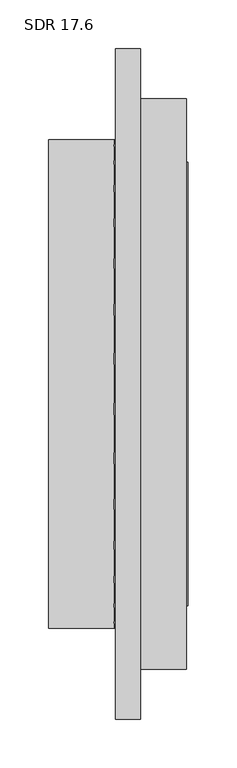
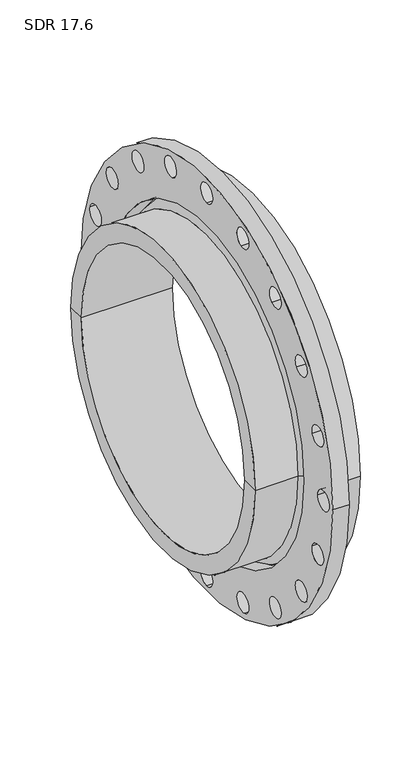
"""IFC4 building model written with IfcOpenShell, lengths in millimetres: valve geometry, Aquatherm - Flange Adapter Butt-Weld : SDR 17.6."""

from ifc_helpers import new_model, si_unit, point, frame, frame_2d, origin, origin_2d, place, context, project, spatial, polyline, circle_curve, trimmed, segment, composite_curve, outline, extrude, source, transform, mapped, element, save
from ifc_brep_helpers import plane_surface, cylinder_surface, revolved_surface, advanced_brep


def sdr_17_6_2c90151d(model_context):
    return source(origin(), model_context, "Body", "SolidModel", [
        extrude(outline(composite_curve([segment(trimmed(circle_curve(origin_2d(), 342.9), [point((-342.9, 0.0))], [point((342.9, 0.0))], False, "CARTESIAN"), True, "CONTINUOUS"), segment(trimmed(circle_curve(origin_2d(), 342.9), [point((342.9, 0.0))], [point((-342.9, 0.0))], False, "CARTESIAN"), True, "CONTINUOUS")], self_intersect=False), holes=[composite_curve([segment(trimmed(circle_curve(origin_2d(), 264.16), [point((-264.16, 0.0))], [point((264.16, 0.0))], True, "CARTESIAN"), True, "CONTINUOUS"), segment(trimmed(circle_curve(origin_2d(), 264.16), [point((264.16, 0.0))], [point((-264.16, 0.0))], True, "CARTESIAN"), True, "CONTINUOUS")], self_intersect=False), composite_curve([segment(trimmed(circle_curve(frame_2d((317.5, 0.0)), 15.875), [point((301.625, 0.0))], [point((333.375, 0.0))], True, "CARTESIAN"), True, "CONTINUOUS"), segment(trimmed(circle_curve(frame_2d((317.5, 0.0)), 15.875), [point((333.375, 0.0))], [point((301.625, 0.0))], True, "CARTESIAN"), True, "CONTINUOUS")], self_intersect=False), composite_curve([segment(trimmed(circle_curve(frame_2d((301.9604439, -98.1128957)), 15.875), [point((286.8624217, -93.2072509))], [point((317.0584661, -103.0185405))], True, "CARTESIAN"), True, "CONTINUOUS"), segment(trimmed(circle_curve(frame_2d((301.9604439, -98.1128957)), 15.875), [point((317.0584661, -103.0185405))], [point((286.8624217, -93.2072509))], True, "CARTESIAN"), True, "CONTINUOUS")], self_intersect=False), composite_curve([segment(trimmed(circle_curve(frame_2d((301.9604439, 98.1128957)), 15.875), [point((286.8624217, 93.2072509))], [point((317.0584661, 103.0185405))], True, "CARTESIAN"), True, "CONTINUOUS"), segment(trimmed(circle_curve(frame_2d((301.9604439, 98.1128957)), 15.875), [point((317.0584661, 103.0185405))], [point((286.8624217, 93.2072509))], True, "CARTESIAN"), True, "CONTINUOUS")], self_intersect=False), composite_curve([segment(trimmed(circle_curve(frame_2d((256.8628957, 186.6218176)), 15.875), [point((244.0197509, 177.2907267))], [point((269.7060405, 195.9529085))], True, "CARTESIAN"), True, "CONTINUOUS"), segment(trimmed(circle_curve(frame_2d((256.8628957, 186.6218176)), 15.875), [point((269.7060405, 195.9529085))], [point((244.0197509, 177.2907267))], True, "CARTESIAN"), True, "CONTINUOUS")], self_intersect=False), composite_curve([segment(trimmed(circle_curve(frame_2d((186.6218176, 256.8628957)), 15.875), [point((177.2907267, 244.0197509))], [point((195.9529085, 269.7060405))], True, "CARTESIAN"), True, "CONTINUOUS"), segment(trimmed(circle_curve(frame_2d((186.6218176, 256.8628957)), 15.875), [point((195.9529085, 269.7060405))], [point((177.2907267, 244.0197509))], True, "CARTESIAN"), True, "CONTINUOUS")], self_intersect=False), composite_curve([segment(trimmed(circle_curve(frame_2d((98.1128957, 301.9604439)), 15.875), [point((93.2072509, 286.8624217))], [point((103.0185405, 317.0584661))], True, "CARTESIAN"), True, "CONTINUOUS"), segment(trimmed(circle_curve(frame_2d((98.1128957, 301.9604439)), 15.875), [point((103.0185405, 317.0584661))], [point((93.2072509, 286.8624217))], True, "CARTESIAN"), True, "CONTINUOUS")], self_intersect=False), composite_curve([segment(trimmed(circle_curve(frame_2d((0.0, 317.5)), 15.875), [point((0.0, 301.625))], [point((0.0, 333.375))], True, "CARTESIAN"), True, "CONTINUOUS"), segment(trimmed(circle_curve(frame_2d((0.0, 317.5)), 15.875), [point((0.0, 333.375))], [point((0.0, 301.625))], True, "CARTESIAN"), True, "CONTINUOUS")], self_intersect=False), composite_curve([segment(trimmed(circle_curve(frame_2d((-98.1128957, 301.9604439)), 15.875), [point((-93.2072509, 286.8624217))], [point((-103.0185405, 317.0584661))], True, "CARTESIAN"), True, "CONTINUOUS"), segment(trimmed(circle_curve(frame_2d((-98.1128957, 301.9604439)), 15.875), [point((-103.0185405, 317.0584661))], [point((-93.2072509, 286.8624217))], True, "CARTESIAN"), True, "CONTINUOUS")], self_intersect=False), composite_curve([segment(trimmed(circle_curve(frame_2d((-186.6218176, 256.8628957)), 15.875), [point((-177.2907267, 244.0197509))], [point((-195.9529085, 269.7060405))], True, "CARTESIAN"), True, "CONTINUOUS"), segment(trimmed(circle_curve(frame_2d((-186.6218176, 256.8628957)), 15.875), [point((-195.9529085, 269.7060405))], [point((-177.2907267, 244.0197509))], True, "CARTESIAN"), True, "CONTINUOUS")], self_intersect=False), composite_curve([segment(trimmed(circle_curve(frame_2d((-256.8628957, 186.6218176)), 15.875), [point((-244.0197509, 177.2907267))], [point((-269.7060405, 195.9529085))], True, "CARTESIAN"), True, "CONTINUOUS"), segment(trimmed(circle_curve(frame_2d((-256.8628957, 186.6218176)), 15.875), [point((-269.7060405, 195.9529085))], [point((-244.0197509, 177.2907267))], True, "CARTESIAN"), True, "CONTINUOUS")], self_intersect=False), composite_curve([segment(trimmed(circle_curve(frame_2d((-301.9604439, 98.1128957)), 15.875), [point((-286.8624217, 93.2072509))], [point((-317.0584661, 103.0185405))], True, "CARTESIAN"), True, "CONTINUOUS"), segment(trimmed(circle_curve(frame_2d((-301.9604439, 98.1128957)), 15.875), [point((-317.0584661, 103.0185405))], [point((-286.8624217, 93.2072509))], True, "CARTESIAN"), True, "CONTINUOUS")], self_intersect=False), composite_curve([segment(trimmed(circle_curve(frame_2d((-317.5, 0.0)), 15.875), [point((-301.625, 0.0))], [point((-333.375, 0.0))], True, "CARTESIAN"), True, "CONTINUOUS"), segment(trimmed(circle_curve(frame_2d((-317.5, 0.0)), 15.875), [point((-333.375, 0.0))], [point((-301.625, 0.0))], True, "CARTESIAN"), True, "CONTINUOUS")], self_intersect=False), composite_curve([segment(trimmed(circle_curve(frame_2d((-301.9604439, -98.1128957)), 15.875), [point((-286.8624217, -93.2072509))], [point((-317.0584661, -103.0185405))], True, "CARTESIAN"), True, "CONTINUOUS"), segment(trimmed(circle_curve(frame_2d((-301.9604439, -98.1128957)), 15.875), [point((-317.0584661, -103.0185405))], [point((-286.8624217, -93.2072509))], True, "CARTESIAN"), True, "CONTINUOUS")], self_intersect=False), composite_curve([segment(trimmed(circle_curve(frame_2d((-256.8628957, -186.6218176)), 15.875), [point((-244.0197509, -177.2907267))], [point((-269.7060405, -195.9529085))], True, "CARTESIAN"), True, "CONTINUOUS"), segment(trimmed(circle_curve(frame_2d((-256.8628957, -186.6218176)), 15.875), [point((-269.7060405, -195.9529085))], [point((-244.0197509, -177.2907267))], True, "CARTESIAN"), True, "CONTINUOUS")], self_intersect=False), composite_curve([segment(trimmed(circle_curve(frame_2d((-186.6218176, -256.8628957)), 15.875), [point((-177.2907267, -244.0197509))], [point((-195.9529085, -269.7060405))], True, "CARTESIAN"), True, "CONTINUOUS"), segment(trimmed(circle_curve(frame_2d((-186.6218176, -256.8628957)), 15.875), [point((-195.9529085, -269.7060405))], [point((-177.2907267, -244.0197509))], True, "CARTESIAN"), True, "CONTINUOUS")], self_intersect=False), composite_curve([segment(trimmed(circle_curve(frame_2d((-98.1128957, -301.9604439)), 15.875), [point((-93.2072509, -286.8624217))], [point((-103.0185405, -317.0584661))], True, "CARTESIAN"), True, "CONTINUOUS"), segment(trimmed(circle_curve(frame_2d((-98.1128957, -301.9604439)), 15.875), [point((-103.0185405, -317.0584661))], [point((-93.2072509, -286.8624217))], True, "CARTESIAN"), True, "CONTINUOUS")], self_intersect=False), composite_curve([segment(trimmed(circle_curve(frame_2d((0.0, -317.5)), 15.875), [point((0.0, -301.625))], [point((0.0, -333.375))], True, "CARTESIAN"), True, "CONTINUOUS"), segment(trimmed(circle_curve(frame_2d((0.0, -317.5)), 15.875), [point((0.0, -333.375))], [point((0.0, -301.625))], True, "CARTESIAN"), True, "CONTINUOUS")], self_intersect=False), composite_curve([segment(trimmed(circle_curve(frame_2d((98.1128957, -301.9604439)), 15.875), [point((93.2072509, -286.8624217))], [point((103.0185405, -317.0584661))], True, "CARTESIAN"), True, "CONTINUOUS"), segment(trimmed(circle_curve(frame_2d((98.1128957, -301.9604439)), 15.875), [point((103.0185405, -317.0584661))], [point((93.2072509, -286.8624217))], True, "CARTESIAN"), True, "CONTINUOUS")], self_intersect=False), composite_curve([segment(trimmed(circle_curve(frame_2d((186.6218176, -256.8628957)), 15.875), [point((177.2907267, -244.0197509))], [point((195.9529085, -269.7060405))], True, "CARTESIAN"), True, "CONTINUOUS"), segment(trimmed(circle_curve(frame_2d((186.6218176, -256.8628957)), 15.875), [point((195.9529085, -269.7060405))], [point((177.2907267, -244.0197509))], True, "CARTESIAN"), True, "CONTINUOUS")], self_intersect=False), composite_curve([segment(trimmed(circle_curve(frame_2d((256.8628957, -186.6218176)), 15.875), [point((244.0197509, -177.2907267))], [point((269.7060405, -195.9529085))], True, "CARTESIAN"), True, "CONTINUOUS"), segment(trimmed(circle_curve(frame_2d((256.8628957, -186.6218176)), 15.875), [point((269.7060405, -195.9529085))], [point((244.0197509, -177.2907267))], True, "CARTESIAN"), True, "CONTINUOUS")], self_intersect=False)]), frame((-25.4, 0.0, 0.0), z_axis=(1.0, 0.0, 0.0), x_axis=(0.0, 1.0, 0.0)), (0.0, 0.0, 1.0), 25.4),
        advanced_brep(
        [(46.99, 292.1, 0.0), (46.99, -292.1, 0.0), (0.0, -292.1, 0.0), (0.0, 292.1, 0.0), (48.5775, 221.742, 0.0), (48.5775, -221.742, 0.0), (48.5775, -226.822, 0.0), (48.5775, 226.822, 0.0), (-93.98, 221.742, 0.0), (-93.98, -221.742, 0.0), (-93.98, 250.19, 0.0), (-93.98, -250.19, 0.0), (-26.924, 250.19, 0.0), (-26.924, -250.19, 0.0), (0.0, -262.89, 0.0), (0.0, 262.89, 0.0), (46.99, 226.822, 0.0), (46.99, -226.822, 0.0)],
        [
            (0, 1, circle_curve(frame((46.99, 0.0, 0.0), z_axis=(-1.0, 0.0, 0.0), x_axis=(0.0, -1.0, 0.0)), 292.1)),
            (1, 2),
            (2, 3, circle_curve(frame((0.0, 0.0, 0.0), z_axis=(1.0, 0.0, 0.0), x_axis=(0.0, -1.0, 0.0)), 292.1)),
            (3, 0),
            (1, 0, circle_curve(frame((46.99, 0.0, 0.0), z_axis=(-1.0, 0.0, 0.0), x_axis=(0.0, -1.0, 0.0)), 292.1)),
            (3, 2, circle_curve(frame((0.0, 0.0, 0.0), z_axis=(1.0, 0.0, 0.0), x_axis=(0.0, -1.0, 0.0)), 292.1)),
            (4, 5, circle_curve(frame((48.5775, 0.0, 0.0), z_axis=(-1.0, 0.0, 0.0), x_axis=(0.0, -1.0, 0.0)), 221.742)),
            (5, 6),
            (6, 7, circle_curve(frame((48.5775, 0.0, 0.0), z_axis=(1.0, 0.0, 0.0), x_axis=(0.0, -1.0, 0.0)), 226.822)),
            (7, 4),
            (5, 4, circle_curve(frame((48.5775, 0.0, 0.0), z_axis=(-1.0, 0.0, 0.0), x_axis=(0.0, -1.0, 0.0)), 221.742)),
            (7, 6, circle_curve(frame((48.5775, 0.0, 0.0), z_axis=(1.0, 0.0, 0.0), x_axis=(0.0, -1.0, 0.0)), 226.822)),
            (8, 9, circle_curve(frame((-93.98, 0.0, 0.0), z_axis=(-1.0, 0.0, 0.0), x_axis=(0.0, -1.0, 0.0)), 221.742)),
            (9, 5),
            (4, 8),
            (9, 8, circle_curve(frame((-93.98, 0.0, 0.0), z_axis=(-1.0, 0.0, 0.0), x_axis=(0.0, -1.0, 0.0)), 221.742)),
            (10, 11, circle_curve(frame((-93.98, 0.0, 0.0), z_axis=(-1.0, 0.0, 0.0), x_axis=(0.0, -1.0, 0.0)), 250.19)),
            (11, 9),
            (8, 10),
            (11, 10, circle_curve(frame((-93.98, 0.0, 0.0), z_axis=(-1.0, 0.0, 0.0), x_axis=(0.0, -1.0, 0.0)), 250.19)),
            (12, 13, circle_curve(frame((-26.924, 0.0, 0.0), z_axis=(-1.0, 0.0, 0.0), x_axis=(0.0, -1.0, 0.0)), 250.19)),
            (13, 11),
            (10, 12),
            (13, 12, circle_curve(frame((-26.924, 0.0, 0.0), z_axis=(-1.0, 0.0, 0.0), x_axis=(0.0, -1.0, 0.0)), 250.19)),
            (2, 14),
            (14, 15, circle_curve(frame((0.0, 0.0, 0.0), z_axis=(1.0, 0.0, 0.0), x_axis=(0.0, -1.0, 0.0)), 262.89)),
            (15, 3),
            (15, 14, circle_curve(frame((0.0, 0.0, 0.0), z_axis=(1.0, 0.0, 0.0), x_axis=(0.0, -1.0, 0.0)), 262.89)),
            (16, 17, circle_curve(frame((46.99, 0.0, 0.0), z_axis=(-1.0, 0.0, 0.0), x_axis=(0.0, -1.0, 0.0)), 226.822)),
            (17, 1),
            (0, 16),
            (17, 16, circle_curve(frame((46.99, 0.0, 0.0), z_axis=(-1.0, 0.0, 0.0), x_axis=(0.0, -1.0, 0.0)), 226.822)),
            (6, 17),
            (16, 7),
            (14, 13),
            (12, 15),
        ],
        [
            cylinder_surface(frame((1487.6289321, 0.0, 0.0), z_axis=(1.0, 0.0, 0.0), x_axis=(0.0, -1.0, 0.0)), 292.1),
            plane_surface(frame((48.5775, 0.0, 0.0), z_axis=(1.0, 0.0, 0.0), x_axis=(0.0, -1.0, 0.0))),
            revolved_surface(polyline([(48.5775000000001, -221.742, 0.0), (-93.98000000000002, -221.742, 0.0)]), (1487.6289321, 0.0, 0.0), (1.0, 0.0, 0.0)),
            plane_surface(frame((-93.98, 0.0, 0.0), z_axis=(-1.0, 0.0, 0.0), x_axis=(0.0, -1.0, 0.0))),
            cylinder_surface(frame((1487.6289321, 0.0, 0.0), z_axis=(1.0, 0.0, 0.0), x_axis=(0.0, -1.0, 0.0)), 250.19),
            plane_surface(frame((0.0, 0.0, 0.0), z_axis=(-1.0, 0.0, 0.0), x_axis=(0.0, -1.0, 0.0))),
            plane_surface(frame((46.99, 0.0, 0.0), z_axis=(1.0, 0.0, 0.0), x_axis=(0.0, -1.0, 0.0))),
            cylinder_surface(frame((1487.6289321, 0.0, 0.0), z_axis=(1.0, 0.0, 0.0), x_axis=(0.0, -1.0, 0.0)), 226.822),
            revolved_surface(polyline([(-26.924, -250.19, 0.0), (0.0, -262.89, 0.0)]), (1487.6289321, 0.0, 0.0), (1.0, 0.0, 0.0)),
        ],
        [
            (0, [[1, 2, 3, 4]]),
            (0, [[5, -4, 6, -2]]),
            (1, [[7, 8, 9, 10]]),
            (1, [[11, -10, 12, -8]]),
            (2, [[13, 14, -7, 15]]),
            (2, [[16, -15, -11, -14]]),
            (3, [[17, 18, -13, 19]]),
            (3, [[20, -19, -16, -18]]),
            (4, [[21, 22, -17, 23]]),
            (4, [[24, -23, -20, -22]]),
            (5, [[-3, 25, 26, 27]]),
            (5, [[-6, -27, 28, -25]]),
            (6, [[29, 30, -1, 31]]),
            (6, [[32, -31, -5, -30]]),
            (7, [[-9, 33, -29, 34]]),
            (7, [[-12, -34, -32, -33]]),
            (8, [[-26, 35, -21, 36]]),
            (8, [[-28, -36, -24, -35]]),
        ],
    ),
    ])


if __name__ == "__main__":
    model = new_model("IFC4")
    model_context = context("Model", 3, world=origin())
    ifc_project = project(units=[si_unit("LENGTHUNIT", "METRE", prefix="MILLI")], contexts=[model_context])
    site = spatial("IfcSite", under=ifc_project)
    building = spatial("IfcBuilding", under=site)
    placement = place(None, origin())
    sdr_17_6_shape = sdr_17_6_2c90151d(model_context)
    element("IfcValve", 1, ObjectType="Aquatherm - Flange Adapter Butt-Weld : SDR 17.6", at=placement, inside=building, context=model_context, shape_type="MappedRepresentation", body=[
        mapped(sdr_17_6_shape, transform((0.0, 0.0, 0.0), x_axis=(1.0, 0.0, 0.0), y_axis=(0.0, 1.0, 0.0), z_axis=(0.0, 0.0, 1.0))),
    ])
    save(model, "model.ifc")
